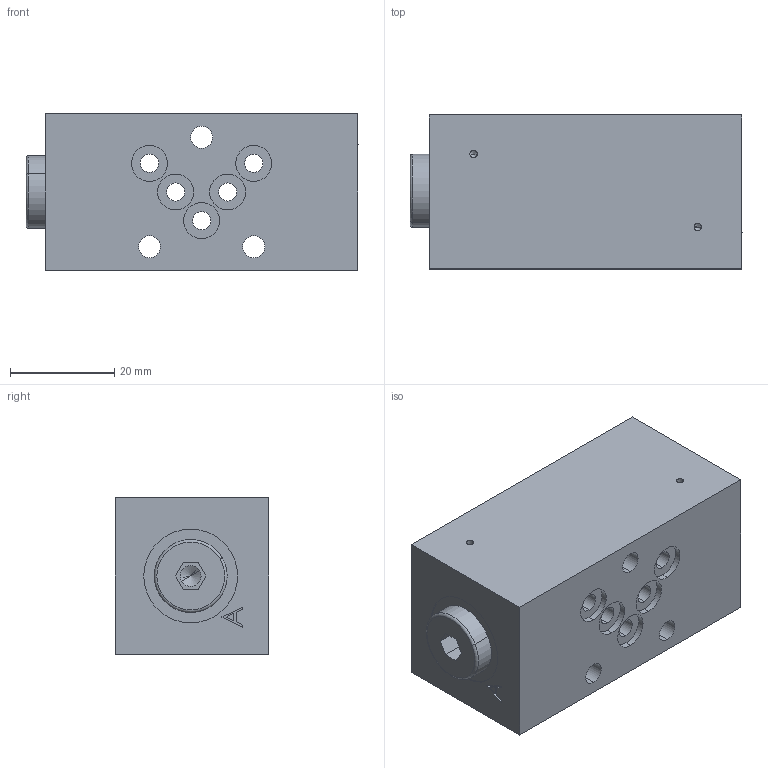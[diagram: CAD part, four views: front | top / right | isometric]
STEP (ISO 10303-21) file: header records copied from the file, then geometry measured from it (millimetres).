
FILE_DESCRIPTION (( 'STEP AP214' ), '1' );
FILE_NAME ('PGSA03-B.STEP', '2017-03-20T06:08:52', ( '' ), ( '' ), 'SwSTEP 2.0', 'SolidWorks 2016', '' );
FILE_SCHEMA (( 'AUTOMOTIVE_DESIGN' ));
Length unit declared in the file: millimetre
Products named in the file (1): PGSA03-B
Bounding box: 63.7 x 29.5 x 30 mm (x, y, z)
Volume: 49376.4 mm3; surface area: 13512.9 mm2
Topology: 3 solids, 3 shells, 126 faces, 299 edges, 189 vertices
Faces by surface type: plane 51, cylinder 50, cone 14, bspline 9, torus 2
Entity records: 5545 total; most frequent: CARTESIAN_POINT 1166, DIRECTION 615, ORIENTED_EDGE 578, EDGE_CURVE 289, AXIS2_PLACEMENT_3D 226, VERTEX_POINT 189, EDGE_LOOP 164, LINE 163
